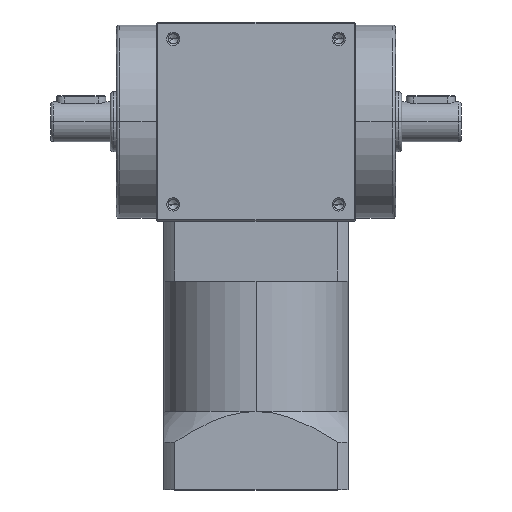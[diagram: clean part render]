
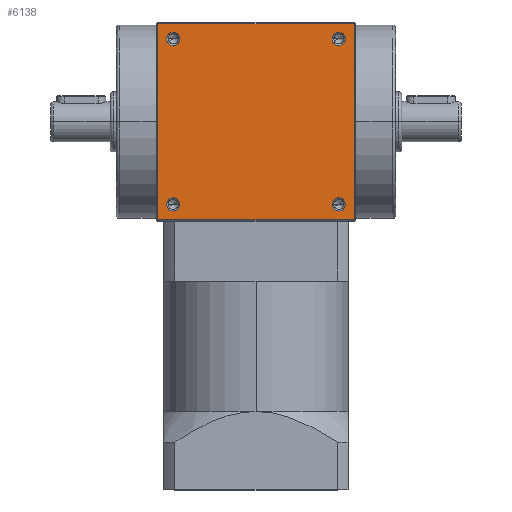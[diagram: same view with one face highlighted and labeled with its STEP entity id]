
A CAD part, top view. The second image highlights one B-rep face of the part: STEP entity #6138.
In plain terms, the highlighted planar face has unit normal (0, 0, 1).
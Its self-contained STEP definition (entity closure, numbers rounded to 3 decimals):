
#144 = VERTEX_POINT ( 'NONE', #550 ) ;
#383 = CARTESIAN_POINT ( 'NONE',  ( -29.15, 27., 32.5 ) ) ;
#396 = CARTESIAN_POINT ( 'NONE',  ( 27., -27., 32.5 ) ) ;
#550 = CARTESIAN_POINT ( 'NONE',  ( 32., 32., 32.5 ) ) ;
#562 = DIRECTION ( 'NONE',  ( -1., 0., 0. ) ) ;
#614 = EDGE_CURVE ( 'NONE', #6174, #5833, #3733, .T. ) ;
#646 = DIRECTION ( 'NONE',  ( 0., 0., -1. ) ) ;
#742 = EDGE_CURVE ( 'NONE', #5298, #7506, #8972, .T. ) ;
#756 = EDGE_CURVE ( 'NONE', #5833, #144, #4302, .T. ) ;
#951 = CARTESIAN_POINT ( 'NONE',  ( 24.85, -27., 32.5 ) ) ;
#1001 = AXIS2_PLACEMENT_3D ( 'NONE', #2822, #8274, #562 ) ;
#1041 = DIRECTION ( 'NONE',  ( -1., 0., 0. ) ) ;
#1569 = CARTESIAN_POINT ( 'NONE',  ( 0., 32., 32.5 ) ) ;
#1825 = DIRECTION ( 'NONE',  ( 0., 0., -1. ) ) ;
#1896 = CARTESIAN_POINT ( 'NONE',  ( 0., -32., 32.5 ) ) ;
#2102 = CIRCLE ( 'NONE', #1001, 2.15 ) ;
#2180 = PLANE ( 'NONE',  #7020 ) ;
#2245 = FACE_BOUND ( 'NONE', #4394, .T. ) ;
#2256 = AXIS2_PLACEMENT_3D ( 'NONE', #5569, #9409, #7846 ) ;
#2263 = VECTOR ( 'NONE', #5173, 1000. ) ;
#2264 = EDGE_LOOP ( 'NONE', ( #4894, #6305 ) ) ;
#2327 = DIRECTION ( 'NONE',  ( -1., 0., 0. ) ) ;
#2393 = AXIS2_PLACEMENT_3D ( 'NONE', #2699, #1825, #5742 ) ;
#2405 = AXIS2_PLACEMENT_3D ( 'NONE', #396, #4126, #5732 ) ;
#2430 = CARTESIAN_POINT ( 'NONE',  ( -27., 27., 32.5 ) ) ;
#2566 = AXIS2_PLACEMENT_3D ( 'NONE', #9894, #8453, #3770 ) ;
#2668 = AXIS2_PLACEMENT_3D ( 'NONE', #7394, #2823, #8936 ) ;
#2699 = CARTESIAN_POINT ( 'NONE',  ( -27., 27., 32.5 ) ) ;
#2822 = CARTESIAN_POINT ( 'NONE',  ( 27., 27., 32.5 ) ) ;
#2823 = DIRECTION ( 'NONE',  ( 0., 0., -1. ) ) ;
#2857 = CIRCLE ( 'NONE', #2405, 2.15 ) ;
#2862 = VERTEX_POINT ( 'NONE', #5036 ) ;
#2906 = ORIENTED_EDGE ( 'NONE', *, *, #756, .T. ) ;
#3280 = DIRECTION ( 'NONE',  ( 0., -1., 0. ) ) ;
#3299 = CARTESIAN_POINT ( 'NONE',  ( 24.85, 27., 32.5 ) ) ;
#3431 = CIRCLE ( 'NONE', #2566, 2.15 ) ;
#3708 = AXIS2_PLACEMENT_3D ( 'NONE', #8159, #8259, #7441 ) ;
#3730 = VECTOR ( 'NONE', #3280, 1000. ) ;
#3733 = LINE ( 'NONE', #1896, #3842 ) ;
#3745 = EDGE_CURVE ( 'NONE', #9583, #8673, #6621, .T. ) ;
#3764 = EDGE_LOOP ( 'NONE', ( #4616, #7749 ) ) ;
#3770 = DIRECTION ( 'NONE',  ( -1., 0., 0. ) ) ;
#3842 = VECTOR ( 'NONE', #6511, 1000. ) ;
#4126 = DIRECTION ( 'NONE',  ( 0., 0., -1. ) ) ;
#4286 = ORIENTED_EDGE ( 'NONE', *, *, #9713, .T. ) ;
#4302 = LINE ( 'NONE', #8126, #2263 ) ;
#4366 = DIRECTION ( 'NONE',  ( -1., 0., 0. ) ) ;
#4394 = EDGE_LOOP ( 'NONE', ( #5660, #5230 ) ) ;
#4485 = ORIENTED_EDGE ( 'NONE', *, *, #5453, .T. ) ;
#4505 = ORIENTED_EDGE ( 'NONE', *, *, #614, .T. ) ;
#4542 = VERTEX_POINT ( 'NONE', #951 ) ;
#4616 = ORIENTED_EDGE ( 'NONE', *, *, #6710, .T. ) ;
#4873 = EDGE_CURVE ( 'NONE', #7523, #9899, #6612, .T. ) ;
#4894 = ORIENTED_EDGE ( 'NONE', *, *, #3745, .T. ) ;
#5036 = CARTESIAN_POINT ( 'NONE',  ( -32., 32., 32.5 ) ) ;
#5041 = CIRCLE ( 'NONE', #9783, 2.15 ) ;
#5155 = LINE ( 'NONE', #9492, #3730 ) ;
#5173 = DIRECTION ( 'NONE',  ( 0., 1., 0. ) ) ;
#5230 = ORIENTED_EDGE ( 'NONE', *, *, #4873, .T. ) ;
#5273 = CARTESIAN_POINT ( 'NONE',  ( 29.15, -27., 32.5 ) ) ;
#5289 = VERTEX_POINT ( 'NONE', #5273 ) ;
#5298 = VERTEX_POINT ( 'NONE', #6249 ) ;
#5453 = EDGE_CURVE ( 'NONE', #2862, #6174, #5155, .T. ) ;
#5569 = CARTESIAN_POINT ( 'NONE',  ( 27., 27., 32.5 ) ) ;
#5601 = CIRCLE ( 'NONE', #2668, 2.15 ) ;
#5660 = ORIENTED_EDGE ( 'NONE', *, *, #7242, .T. ) ;
#5729 = FACE_BOUND ( 'NONE', #2264, .T. ) ;
#5732 = DIRECTION ( 'NONE',  ( -1., 0., 0. ) ) ;
#5742 = DIRECTION ( 'NONE',  ( -1., 0., 0. ) ) ;
#5833 = VERTEX_POINT ( 'NONE', #7858 ) ;
#5855 = EDGE_LOOP ( 'NONE', ( #4485, #4505, #2906, #4286 ) ) ;
#5971 = CARTESIAN_POINT ( 'NONE',  ( 0., 0., 32.5 ) ) ;
#6138 = ADVANCED_FACE ( 'NONE', ( #6568, #7765, #2245, #5729, #8613 ), #2180, .F. ) ;
#6174 = VERTEX_POINT ( 'NONE', #9084 ) ;
#6249 = CARTESIAN_POINT ( 'NONE',  ( -29.15, -27., 32.5 ) ) ;
#6305 = ORIENTED_EDGE ( 'NONE', *, *, #9015, .T. ) ;
#6338 = CARTESIAN_POINT ( 'NONE',  ( -24.85, -27., 32.5 ) ) ;
#6511 = DIRECTION ( 'NONE',  ( 1., 0., 0. ) ) ;
#6522 = EDGE_CURVE ( 'NONE', #4542, #5289, #2857, .T. ) ;
#6568 = FACE_BOUND ( 'NONE', #9262, .T. ) ;
#6612 = CIRCLE ( 'NONE', #2256, 2.15 ) ;
#6621 = CIRCLE ( 'NONE', #2393, 2.15 ) ;
#6710 = EDGE_CURVE ( 'NONE', #7506, #5298, #5601, .T. ) ;
#7020 = AXIS2_PLACEMENT_3D ( 'NONE', #5971, #646, #4366 ) ;
#7242 = EDGE_CURVE ( 'NONE', #9899, #7523, #2102, .T. ) ;
#7394 = CARTESIAN_POINT ( 'NONE',  ( -27., -27., 32.5 ) ) ;
#7441 = DIRECTION ( 'NONE',  ( -1., 0., 0. ) ) ;
#7506 = VERTEX_POINT ( 'NONE', #6338 ) ;
#7523 = VERTEX_POINT ( 'NONE', #3299 ) ;
#7546 = VECTOR ( 'NONE', #2327, 1000. ) ;
#7749 = ORIENTED_EDGE ( 'NONE', *, *, #742, .T. ) ;
#7765 = FACE_BOUND ( 'NONE', #3764, .T. ) ;
#7846 = DIRECTION ( 'NONE',  ( -1., 0., 0. ) ) ;
#7858 = CARTESIAN_POINT ( 'NONE',  ( 32., -32., 32.5 ) ) ;
#7866 = EDGE_CURVE ( 'NONE', #5289, #4542, #3431, .T. ) ;
#7947 = CARTESIAN_POINT ( 'NONE',  ( -24.85, 27., 32.5 ) ) ;
#8126 = CARTESIAN_POINT ( 'NONE',  ( 32., 0., 32.5 ) ) ;
#8159 = CARTESIAN_POINT ( 'NONE',  ( -27., -27., 32.5 ) ) ;
#8204 = ORIENTED_EDGE ( 'NONE', *, *, #7866, .T. ) ;
#8259 = DIRECTION ( 'NONE',  ( 0., 0., -1. ) ) ;
#8269 = LINE ( 'NONE', #1569, #7546 ) ;
#8274 = DIRECTION ( 'NONE',  ( 0., 0., -1. ) ) ;
#8453 = DIRECTION ( 'NONE',  ( 0., 0., -1. ) ) ;
#8613 = FACE_OUTER_BOUND ( 'NONE', #5855, .T. ) ;
#8673 = VERTEX_POINT ( 'NONE', #383 ) ;
#8858 = ORIENTED_EDGE ( 'NONE', *, *, #6522, .T. ) ;
#8936 = DIRECTION ( 'NONE',  ( -1., 0., 0. ) ) ;
#8972 = CIRCLE ( 'NONE', #3708, 2.15 ) ;
#9015 = EDGE_CURVE ( 'NONE', #8673, #9583, #5041, .T. ) ;
#9084 = CARTESIAN_POINT ( 'NONE',  ( -32., -32., 32.5 ) ) ;
#9262 = EDGE_LOOP ( 'NONE', ( #8204, #8858 ) ) ;
#9379 = DIRECTION ( 'NONE',  ( 0., 0., -1. ) ) ;
#9409 = DIRECTION ( 'NONE',  ( 0., 0., -1. ) ) ;
#9492 = CARTESIAN_POINT ( 'NONE',  ( -32., 0., 32.5 ) ) ;
#9547 = CARTESIAN_POINT ( 'NONE',  ( 29.15, 27., 32.5 ) ) ;
#9583 = VERTEX_POINT ( 'NONE', #7947 ) ;
#9713 = EDGE_CURVE ( 'NONE', #144, #2862, #8269, .T. ) ;
#9783 = AXIS2_PLACEMENT_3D ( 'NONE', #2430, #9379, #1041 ) ;
#9894 = CARTESIAN_POINT ( 'NONE',  ( 27., -27., 32.5 ) ) ;
#9899 = VERTEX_POINT ( 'NONE', #9547 ) ;
